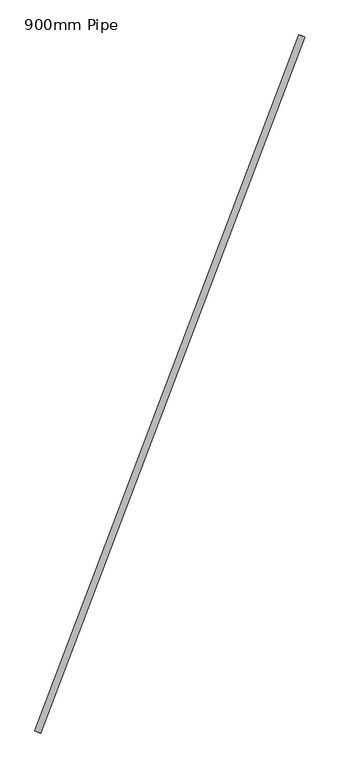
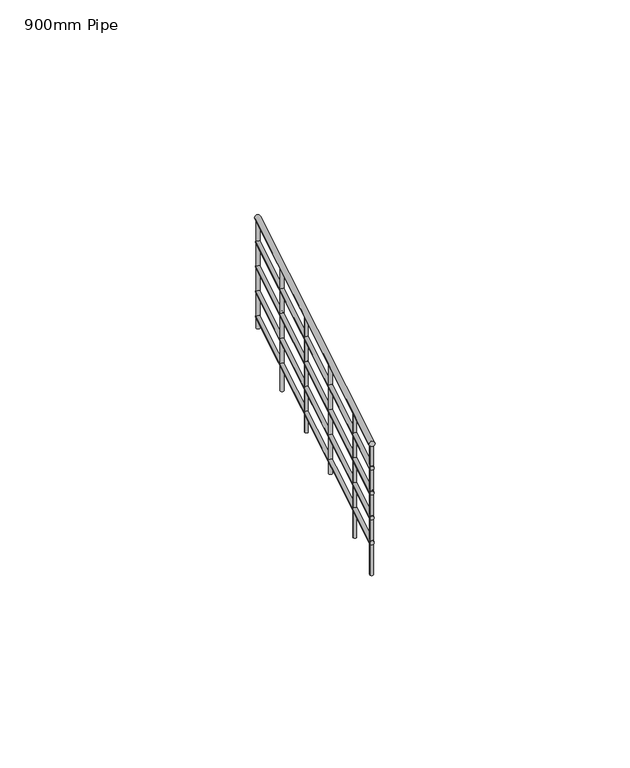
"""IFC4 building model written with IfcOpenShell, lengths in millimetres: railing geometry, 900mm Pipe."""

from ifc_helpers import new_model, si_unit, frame, origin, place, context, project, spatial, circle_curve, ellipse_curve, source, transform, mapped, element, save
from ifc_brep_helpers import plane_surface, cylinder_surface, advanced_brep


def railing_900mm_pipe_3a22cfcf(model_context):
    return source(origin(), model_context, "Body", "AdvancedBrep", [
        advanced_brep(
        [(941647.6673629, -14210.6719754, 8558.3862483), (941685.0592335, -14224.879298, 8558.3862483), (939975.7177931, -18611.0310979, 9992.7391895), (940013.1096637, -18625.2384206, 9992.7391895)],
        [
            (0, 1, ellipse_curve(frame((941666.3632982, -14217.7756367, 8558.3862483), z_axis=(0.3551830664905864, 0.9347967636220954, 0.0), x_axis=(0.0, 0.0, -1.0)), 20.9078693, 20.0)),
            (1, 0, ellipse_curve(frame((941666.3632982, -14217.7756367, 8558.3862483), z_axis=(0.3551830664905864, 0.9347967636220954, 0.0), x_axis=(0.0, 0.0, -1.0)), 20.9078693, 20.0)),
            (2, 3, ellipse_curve(frame((939994.4137284, -18618.1347593, 9992.7391895), z_axis=(-0.3551830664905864, -0.9347967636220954, 0.0), x_axis=(0.0, 0.0, -1.0)), 20.9078693, 20.0)),
            (3, 2, ellipse_curve(frame((939994.4137284, -18618.1347593, 9992.7391895), z_axis=(-0.3551830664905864, -0.9347967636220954, 0.0), x_axis=(0.0, 0.0, -1.0)), 20.9078693, 20.0)),
            (1, 3),
            (2, 0),
        ],
        [
            plane_surface(frame((941666.3632982, -14217.7756367, 8579.2941176), z_axis=(0.3551830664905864, 0.9347967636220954, 0.0), x_axis=(0.9347967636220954, -0.3551830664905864, 0.0))),
            plane_surface(frame((939994.4137284, -18618.1347593, 10013.6470588), z_axis=(-0.3551830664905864, -0.9347967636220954, 0.0), x_axis=(0.9347967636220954, -0.3551830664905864, 0.0))),
            cylinder_surface(frame((941664.2927394, -14223.2250848, 8560.1625651), z_axis=(0.339760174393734, 0.8942056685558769, -0.2914776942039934), x_axis=(0.9347967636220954, -0.3551830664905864, 0.0)), 20.0),
        ],
        [
            (0, [[1, 2]]),
            (1, [[3, 4]]),
            (2, [[-2, 5, -3, 6]]),
            (2, [[-1, -6, -4, -5]]),
        ],
    ),
        advanced_brep(
        [(941652.3413468, -14212.4478907, 8363.6132156), (941680.3852497, -14223.1033827, 8363.6132156), (939980.3917769, -18612.8070133, 9797.9661568), (940008.4356798, -18623.4625053, 9797.9661568)],
        [
            (0, 1, ellipse_curve(frame((941666.3632982, -14217.7756367, 8363.6132156), z_axis=(0.3551830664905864, 0.9347967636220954, 0.0), x_axis=(0.0, 0.0, -1.0)), 15.680902, 15.0)),
            (1, 0, ellipse_curve(frame((941666.3632982, -14217.7756367, 8363.6132156), z_axis=(0.3551830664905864, 0.9347967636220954, 0.0), x_axis=(0.0, 0.0, -1.0)), 15.680902, 15.0)),
            (2, 3, ellipse_curve(frame((939994.4137284, -18618.1347593, 9797.9661568), z_axis=(-0.3551830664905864, -0.9347967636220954, 0.0), x_axis=(0.0, 0.0, -1.0)), 15.680902, 15.0)),
            (3, 2, ellipse_curve(frame((939994.4137284, -18618.1347593, 9797.9661568), z_axis=(-0.3551830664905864, -0.9347967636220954, 0.0), x_axis=(0.0, 0.0, -1.0)), 15.680902, 15.0)),
            (0, 2),
            (3, 1),
        ],
        [
            plane_surface(frame((941666.3632982, -14217.7756367, 8379.2941176), z_axis=(0.3551830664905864, 0.9347967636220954, 0.0), x_axis=(0.9347967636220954, -0.3551830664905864, 0.0))),
            plane_surface(frame((939994.4137284, -18618.1347593, 9813.6470588), z_axis=(-0.3551830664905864, -0.9347967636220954, 0.0), x_axis=(0.9347967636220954, -0.3551830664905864, 0.0))),
            cylinder_surface(frame((941664.8103791, -14221.8627228, 8364.9454533), z_axis=(0.339760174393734, 0.8942056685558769, -0.2914776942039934), x_axis=(0.9347967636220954, -0.3551830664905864, 0.0)), 15.0),
        ],
        [
            (0, [[1, 2]]),
            (1, [[3, 4]]),
            (2, [[-1, 5, -4, 6]]),
            (2, [[-2, -6, -3, -5]]),
        ],
    ),
        advanced_brep(
        [(941652.3413468, -14212.4478907, 8163.6132156), (941680.3852497, -14223.1033827, 8163.6132156), (939980.3917769, -18612.8070133, 9597.9661568), (940008.4356798, -18623.4625053, 9597.9661568)],
        [
            (0, 1, ellipse_curve(frame((941666.3632982, -14217.7756367, 8163.6132156), z_axis=(0.3551830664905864, 0.9347967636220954, 0.0), x_axis=(0.0, 0.0, -1.0)), 15.680902, 15.0)),
            (1, 0, ellipse_curve(frame((941666.3632982, -14217.7756367, 8163.6132156), z_axis=(0.3551830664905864, 0.9347967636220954, 0.0), x_axis=(0.0, 0.0, -1.0)), 15.680902, 15.0)),
            (2, 3, ellipse_curve(frame((939994.4137284, -18618.1347593, 9597.9661568), z_axis=(-0.3551830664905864, -0.9347967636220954, 0.0), x_axis=(0.0, 0.0, -1.0)), 15.680902, 15.0)),
            (3, 2, ellipse_curve(frame((939994.4137284, -18618.1347593, 9597.9661568), z_axis=(-0.3551830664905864, -0.9347967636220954, 0.0), x_axis=(0.0, 0.0, -1.0)), 15.680902, 15.0)),
            (0, 2),
            (3, 1),
        ],
        [
            plane_surface(frame((941666.3632982, -14217.7756367, 8179.2941176), z_axis=(0.3551830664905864, 0.9347967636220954, 0.0), x_axis=(0.9347967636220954, -0.3551830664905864, 0.0))),
            plane_surface(frame((939994.4137284, -18618.1347593, 9613.6470588), z_axis=(-0.3551830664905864, -0.9347967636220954, 0.0), x_axis=(0.9347967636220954, -0.3551830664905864, 0.0))),
            cylinder_surface(frame((941664.8103791, -14221.8627228, 8164.9454533), z_axis=(0.339760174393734, 0.8942056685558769, -0.2914776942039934), x_axis=(0.9347967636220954, -0.3551830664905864, 0.0)), 15.0),
        ],
        [
            (0, [[1, 2]]),
            (1, [[3, 4]]),
            (2, [[-1, 5, -4, 6]]),
            (2, [[-2, -6, -3, -5]]),
        ],
    ),
        advanced_brep(
        [(941652.3413468, -14212.4478907, 7963.6132156), (941680.3852497, -14223.1033827, 7963.6132156), (939980.3917769, -18612.8070133, 9397.9661568), (940008.4356798, -18623.4625053, 9397.9661568)],
        [
            (0, 1, ellipse_curve(frame((941666.3632982, -14217.7756367, 7963.6132156), z_axis=(0.3551830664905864, 0.9347967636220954, 0.0), x_axis=(0.0, 0.0, -1.0)), 15.680902, 15.0)),
            (1, 0, ellipse_curve(frame((941666.3632982, -14217.7756367, 7963.6132156), z_axis=(0.3551830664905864, 0.9347967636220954, 0.0), x_axis=(0.0, 0.0, -1.0)), 15.680902, 15.0)),
            (2, 3, ellipse_curve(frame((939994.4137284, -18618.1347593, 9397.9661568), z_axis=(-0.3551830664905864, -0.9347967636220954, 0.0), x_axis=(0.0, 0.0, -1.0)), 15.680902, 15.0)),
            (3, 2, ellipse_curve(frame((939994.4137284, -18618.1347593, 9397.9661568), z_axis=(-0.3551830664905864, -0.9347967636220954, 0.0), x_axis=(0.0, 0.0, -1.0)), 15.680902, 15.0)),
            (0, 2),
            (3, 1),
        ],
        [
            plane_surface(frame((941666.3632982, -14217.7756367, 7979.2941176), z_axis=(0.3551830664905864, 0.9347967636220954, 0.0), x_axis=(0.9347967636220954, -0.3551830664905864, 0.0))),
            plane_surface(frame((939994.4137284, -18618.1347593, 9413.6470588), z_axis=(-0.3551830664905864, -0.9347967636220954, 0.0), x_axis=(0.9347967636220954, -0.3551830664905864, 0.0))),
            cylinder_surface(frame((941664.8103791, -14221.8627228, 7964.9454533), z_axis=(0.339760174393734, 0.8942056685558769, -0.2914776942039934), x_axis=(0.9347967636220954, -0.3551830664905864, 0.0)), 15.0),
        ],
        [
            (0, [[1, 2]]),
            (1, [[3, 4]]),
            (2, [[-1, 5, -4, 6]]),
            (2, [[-2, -6, -3, -5]]),
        ],
    ),
        advanced_brep(
        [(941652.3413468, -14212.4478907, 7763.6132156), (941680.3852497, -14223.1033827, 7763.6132156), (939980.3917769, -18612.8070133, 9197.9661568), (940008.4356798, -18623.4625053, 9197.9661568)],
        [
            (0, 1, ellipse_curve(frame((941666.3632982, -14217.7756367, 7763.6132156), z_axis=(0.3551830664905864, 0.9347967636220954, 0.0), x_axis=(0.0, 0.0, -1.0)), 15.680902, 15.0)),
            (1, 0, ellipse_curve(frame((941666.3632982, -14217.7756367, 7763.6132156), z_axis=(0.3551830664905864, 0.9347967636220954, 0.0), x_axis=(0.0, 0.0, -1.0)), 15.680902, 15.0)),
            (2, 3, ellipse_curve(frame((939994.4137284, -18618.1347593, 9197.9661568), z_axis=(-0.3551830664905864, -0.9347967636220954, 0.0), x_axis=(0.0, 0.0, -1.0)), 15.680902, 15.0)),
            (3, 2, ellipse_curve(frame((939994.4137284, -18618.1347593, 9197.9661568), z_axis=(-0.3551830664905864, -0.9347967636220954, 0.0), x_axis=(0.0, 0.0, -1.0)), 15.680902, 15.0)),
            (0, 2),
            (3, 1),
        ],
        [
            plane_surface(frame((941666.3632982, -14217.7756367, 7779.2941176), z_axis=(0.3551830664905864, 0.9347967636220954, 0.0), x_axis=(0.9347967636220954, -0.3551830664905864, 0.0))),
            plane_surface(frame((939994.4137284, -18618.1347593, 9213.6470588), z_axis=(-0.3551830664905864, -0.9347967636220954, 0.0), x_axis=(0.9347967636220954, -0.3551830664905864, 0.0))),
            cylinder_surface(frame((941664.8103791, -14221.8627228, 7764.9454533), z_axis=(0.339760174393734, 0.8942056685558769, -0.2914776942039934), x_axis=(0.9347967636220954, -0.3551830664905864, 0.0)), 15.0),
        ],
        [
            (0, [[1, 2]]),
            (1, [[3, 4]]),
            (2, [[-1, 5, -4, 6]]),
            (2, [[-2, -6, -3, -5]]),
        ],
    ),
        advanced_brep(
        [(940257.3159918, -17961.4024795, 9756.3138876), (940233.9460727, -17952.5229029, 9756.3138876), (940233.9460727, -17952.5229029, 8755.0588235), (940257.3159918, -17961.4024795, 8755.0588235)],
        [
            (0, 1, ellipse_curve(frame((940245.6310322, -17956.9626912, 9756.3138876), z_axis=(-0.10352794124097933, -0.2724724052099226, -0.9565776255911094), x_axis=(-0.3397601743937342, -0.8942056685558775, 0.2914776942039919)), 13.0674183, 12.5)),
            (1, 2),
            (2, 3, circle_curve(frame((940245.6310322, -17956.9626912, 8755.0588235), z_axis=(0.0, 0.0, 1.0000000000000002), x_axis=(-0.9347967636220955, 0.3551830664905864, 0.0)), 12.5)),
            (3, 0),
            (3, 2, circle_curve(frame((940245.6310322, -17956.9626912, 8755.0588235), z_axis=(0.0, 0.0, 1.0000000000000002), x_axis=(-0.9347967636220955, 0.3551830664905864, 0.0)), 12.5)),
            (1, 0, ellipse_curve(frame((940245.6310322, -17956.9626912, 9756.3138876), z_axis=(-0.10352794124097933, -0.2724724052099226, -0.9565776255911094), x_axis=(-0.3397601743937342, -0.8942056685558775, 0.2914776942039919)), 13.0674183, 12.5)),
        ],
        [
            cylinder_surface(frame((940245.6310322, -17956.9626912, 8655.0588235), z_axis=(0.0, 0.0, 1.0000000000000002), x_axis=(-0.9347967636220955, 0.3551830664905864, 0.0)), 12.5),
            plane_surface(frame((940213.3815365, -17971.4530336, 9763.9316095), z_axis=(0.10352794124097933, 0.2724724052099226, 0.9565776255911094), x_axis=(0.9347967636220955, -0.3551830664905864, 0.0))),
            plane_surface(frame((940231.1406898, -17924.7131954, 8755.0588235), z_axis=(0.0, 0.0, -1.0000000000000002), x_axis=(0.9347967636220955, -0.3551830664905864, 0.0))),
        ],
        [
            (0, [[1, 2, 3, 4]]),
            (0, [[5, -2, 6, -4]]),
            (1, [[-6, -1]]),
            (2, [[-5, -3]]),
        ],
    ),
        advanced_brep(
        [(940612.4990583, -17026.6057159, 9451.6050104), (940589.1291392, -17017.7261392, 9451.6050104), (940589.1291392, -17017.7261392, 8575.7647059), (940612.4990583, -17026.6057159, 8575.7647059)],
        [
            (0, 1, ellipse_curve(frame((940600.8140987, -17022.1659276, 9451.6050104), z_axis=(-0.10352794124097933, -0.2724724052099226, -0.9565776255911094), x_axis=(-0.3397601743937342, -0.8942056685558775, 0.2914776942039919)), 13.0674183, 12.5)),
            (1, 2),
            (2, 3, circle_curve(frame((940600.8140987, -17022.1659276, 8575.7647059), z_axis=(0.0, 0.0, 1.0000000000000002), x_axis=(-0.9347967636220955, 0.3551830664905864, 0.0)), 12.5)),
            (3, 0),
            (3, 2, circle_curve(frame((940600.8140987, -17022.1659276, 8575.7647059), z_axis=(0.0, 0.0, 1.0000000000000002), x_axis=(-0.9347967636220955, 0.3551830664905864, 0.0)), 12.5)),
            (1, 0, ellipse_curve(frame((940600.8140987, -17022.1659276, 9451.6050104), z_axis=(-0.10352794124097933, -0.2724724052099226, -0.9565776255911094), x_axis=(-0.3397601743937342, -0.8942056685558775, 0.2914776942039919)), 13.0674183, 12.5)),
        ],
        [
            cylinder_surface(frame((940600.8140987, -17022.1659276, 8475.7647059), z_axis=(0.0, 0.0, 1.0000000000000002), x_axis=(-0.9347967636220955, 0.3551830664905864, 0.0)), 12.5),
            plane_surface(frame((940568.564603, -17036.65627, 9459.2227324), z_axis=(0.10352794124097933, 0.2724724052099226, 0.9565776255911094), x_axis=(0.9347967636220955, -0.3551830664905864, 0.0))),
            plane_surface(frame((940586.3237563, -16989.9164318, 8575.7647059), z_axis=(0.0, 0.0, -1.0000000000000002), x_axis=(0.9347967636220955, -0.3551830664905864, 0.0))),
        ],
        [
            (0, [[1, 2, 3, 4]]),
            (0, [[5, -2, 6, -4]]),
            (1, [[-6, -1]]),
            (2, [[-5, -3]]),
        ],
    ),
        advanced_brep(
        [(940967.6821248, -16091.8089523, 9146.8961333), (940944.3122057, -16082.9293756, 9146.8961333), (940944.3122057, -16082.9293756, 8217.1764706), (940967.6821248, -16091.8089523, 8217.1764706)],
        [
            (0, 1, ellipse_curve(frame((940955.9971652, -16087.369164, 9146.8961333), z_axis=(-0.10352794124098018, -0.27247240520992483, -0.9565776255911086), x_axis=(-0.3397601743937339, -0.8942056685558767, 0.29147769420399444)), 13.0674183, 12.5)),
            (1, 2),
            (2, 3, circle_curve(frame((940955.9971652, -16087.369164, 8217.1764706), z_axis=(0.0, 0.0, 1.0000000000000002), x_axis=(-0.9347967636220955, 0.3551830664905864, 0.0)), 12.5)),
            (3, 0),
            (3, 2, circle_curve(frame((940955.9971652, -16087.369164, 8217.1764706), z_axis=(0.0, 0.0, 1.0000000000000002), x_axis=(-0.9347967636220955, 0.3551830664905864, 0.0)), 12.5)),
            (1, 0, ellipse_curve(frame((940955.9971652, -16087.369164, 9146.8961333), z_axis=(-0.10352794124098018, -0.27247240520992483, -0.9565776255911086), x_axis=(-0.3397601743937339, -0.8942056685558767, 0.29147769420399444)), 13.0674183, 12.5)),
        ],
        [
            cylinder_surface(frame((940955.9971652, -16087.369164, 8117.1764706), z_axis=(0.0, 0.0, 1.0000000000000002), x_axis=(-0.9347967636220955, 0.3551830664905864, 0.0)), 12.5),
            plane_surface(frame((940923.7476695, -16101.8595064, 9154.5138552), z_axis=(0.10352794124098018, 0.27247240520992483, 0.9565776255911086), x_axis=(0.9347967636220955, -0.3551830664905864, 0.0))),
            plane_surface(frame((940941.5068228, -16055.1196682, 8217.1764706), z_axis=(0.0, 0.0, -1.0000000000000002), x_axis=(0.9347967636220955, -0.3551830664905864, 0.0))),
        ],
        [
            (0, [[1, 2, 3, 4]]),
            (0, [[5, -2, 6, -4]]),
            (1, [[-6, -1]]),
            (2, [[-5, -3]]),
        ],
    ),
        advanced_brep(
        [(941322.8651913, -15157.0121887, 8842.1872561), (941299.4952722, -15148.132612, 8842.1872561), (941299.4952722, -15148.132612, 7858.5882353), (941322.8651913, -15157.0121887, 7858.5882353)],
        [
            (0, 1, ellipse_curve(frame((941311.1802317, -15152.5724003, 8842.1872561), z_axis=(-0.10352794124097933, -0.2724724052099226, -0.9565776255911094), x_axis=(-0.3397601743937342, -0.8942056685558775, 0.2914776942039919)), 13.0674183, 12.5)),
            (1, 2),
            (2, 3, circle_curve(frame((941311.1802317, -15152.5724003, 7858.5882353), z_axis=(0.0, 0.0, 1.0000000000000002), x_axis=(-0.9347967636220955, 0.3551830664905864, 0.0)), 12.5)),
            (3, 0),
            (3, 2, circle_curve(frame((941311.1802317, -15152.5724003, 7858.5882353), z_axis=(0.0, 0.0, 1.0000000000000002), x_axis=(-0.9347967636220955, 0.3551830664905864, 0.0)), 12.5)),
            (1, 0, ellipse_curve(frame((941311.1802317, -15152.5724003, 8842.1872561), z_axis=(-0.10352794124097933, -0.2724724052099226, -0.9565776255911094), x_axis=(-0.3397601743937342, -0.8942056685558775, 0.2914776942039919)), 13.0674183, 12.5)),
        ],
        [
            cylinder_surface(frame((941311.1802317, -15152.5724003, 7758.5882353), z_axis=(0.0, 0.0, 1.0000000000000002), x_axis=(-0.9347967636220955, 0.3551830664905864, 0.0)), 12.5),
            plane_surface(frame((941278.930736, -15167.0627428, 8849.8049781), z_axis=(0.10352794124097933, 0.2724724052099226, 0.9565776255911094), x_axis=(0.9347967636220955, -0.3551830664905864, 0.0))),
            plane_surface(frame((941296.6898893, -15120.3229046, 7858.5882353), z_axis=(0.0, 0.0, -1.0000000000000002), x_axis=(0.9347967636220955, -0.3551830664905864, 0.0))),
        ],
        [
            (0, [[1, 2, 3, 4]]),
            (0, [[5, -2, 6, -4]]),
            (1, [[-6, -1]]),
            (2, [[-5, -3]]),
        ],
    ),
        advanced_brep(
        [(940010.5384763, -18610.8895881, 9968.0224592), (939987.1685572, -18602.0100114, 9968.0224592), (939987.1685572, -18602.0100114, 8934.3529412), (940010.5384763, -18610.8895881, 8934.3529412)],
        [
            (0, 1, ellipse_curve(frame((939998.8535167, -18606.4497997, 9968.0224592), z_axis=(-0.10352794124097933, -0.2724724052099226, -0.9565776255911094), x_axis=(-0.3397601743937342, -0.8942056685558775, 0.2914776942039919)), 13.0674183, 12.5)),
            (1, 2),
            (2, 3, circle_curve(frame((939998.8535167, -18606.4497997, 8934.3529412), z_axis=(0.0, 0.0, 1.0000000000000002), x_axis=(-0.9347967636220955, 0.3551830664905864, 0.0)), 12.5)),
            (3, 0),
            (3, 2, circle_curve(frame((939998.8535167, -18606.4497997, 8934.3529412), z_axis=(0.0, 0.0, 1.0000000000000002), x_axis=(-0.9347967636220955, 0.3551830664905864, 0.0)), 12.5)),
            (1, 0, ellipse_curve(frame((939998.8535167, -18606.4497997, 9968.0224592), z_axis=(-0.10352794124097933, -0.2724724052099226, -0.9565776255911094), x_axis=(-0.3397601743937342, -0.8942056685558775, 0.2914776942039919)), 13.0674183, 12.5)),
        ],
        [
            cylinder_surface(frame((939998.8535167, -18606.4497997, 8834.3529412), z_axis=(0.0, 0.0, 1.0000000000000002), x_axis=(-0.9347967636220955, 0.3551830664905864, 0.0)), 12.5),
            plane_surface(frame((939966.604021, -18620.9401422, 9975.6401811), z_axis=(0.10352794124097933, 0.2724724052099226, 0.9565776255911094), x_axis=(0.9347967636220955, -0.3551830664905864, 0.0))),
            plane_surface(frame((939984.3631743, -18574.200304, 8934.3529412), z_axis=(0.0, 0.0, -1.0000000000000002), x_axis=(0.9347967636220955, -0.3551830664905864, 0.0))),
        ],
        [
            (0, [[1, 2, 3, 4]]),
            (0, [[5, -2, 6, -4]]),
            (1, [[-6, -1]]),
            (2, [[-5, -3]]),
        ],
    ),
        advanced_brep(
        [(941673.6084694, -14233.9003846, 8541.2872399), (941650.2385503, -14225.0208079, 8541.2872399), (941650.2385503, -14225.0208079, 7679.2941176), (941673.6084694, -14233.9003846, 7679.2941176)],
        [
            (0, 1, ellipse_curve(frame((941661.9235099, -14229.4605963, 8541.2872399), z_axis=(-0.10352794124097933, -0.2724724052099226, -0.9565776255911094), x_axis=(-0.3397601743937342, -0.8942056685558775, 0.2914776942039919)), 13.0674183, 12.5)),
            (1, 2),
            (2, 3, circle_curve(frame((941661.9235099, -14229.4605963, 7679.2941176), z_axis=(0.0, 0.0, 1.0000000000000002), x_axis=(-0.9347967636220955, 0.3551830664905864, 0.0)), 12.5)),
            (3, 0),
            (3, 2, circle_curve(frame((941661.9235099, -14229.4605963, 7679.2941176), z_axis=(0.0, 0.0, 1.0000000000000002), x_axis=(-0.9347967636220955, 0.3551830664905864, 0.0)), 12.5)),
            (1, 0, ellipse_curve(frame((941661.9235099, -14229.4605963, 8541.2872399), z_axis=(-0.10352794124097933, -0.2724724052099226, -0.9565776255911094), x_axis=(-0.3397601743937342, -0.8942056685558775, 0.2914776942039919)), 13.0674183, 12.5)),
        ],
        [
            cylinder_surface(frame((941661.9235099, -14229.4605963, 7579.2941176), z_axis=(0.0, 0.0, 1.0000000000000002), x_axis=(-0.9347967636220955, 0.3551830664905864, 0.0)), 12.5),
            plane_surface(frame((941629.6740141, -14243.9509387, 8548.9049619), z_axis=(0.10352794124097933, 0.2724724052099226, 0.9565776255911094), x_axis=(0.9347967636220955, -0.3551830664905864, 0.0))),
            plane_surface(frame((941647.4331675, -14197.2111005, 7679.2941176), z_axis=(0.0, 0.0, -1.0000000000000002), x_axis=(0.9347967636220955, -0.3551830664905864, 0.0))),
        ],
        [
            (0, [[1, 2, 3, 4]]),
            (0, [[5, -2, 6, -4]]),
            (1, [[-6, -1]]),
            (2, [[-5, -3]]),
        ],
    ),
    ])


if __name__ == "__main__":
    model = new_model("IFC4")
    model_context = context("Model", 3, world=origin())
    ifc_project = project(units=[si_unit("LENGTHUNIT", "METRE", prefix="MILLI")], contexts=[model_context])
    site = spatial("IfcSite", under=ifc_project)
    building = spatial("IfcBuilding", under=site)
    placement = place(None, origin())
    railing_900mm_pipe_shape = railing_900mm_pipe_3a22cfcf(model_context)
    element("IfcRailing", 1, ObjectType="900mm Pipe", at=placement, inside=building, context=model_context, shape_type="MappedRepresentation", body=[
        mapped(railing_900mm_pipe_shape, transform((0.0, 0.0, 0.0), x_axis=(1.0, 0.0, 0.0), y_axis=(0.0, 1.0, 0.0), z_axis=(0.0, 0.0, 1.0))),
    ])
    save(model, "model.ifc")
